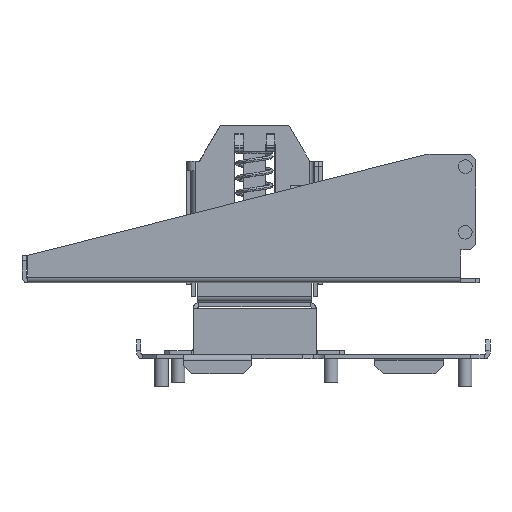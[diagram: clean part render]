
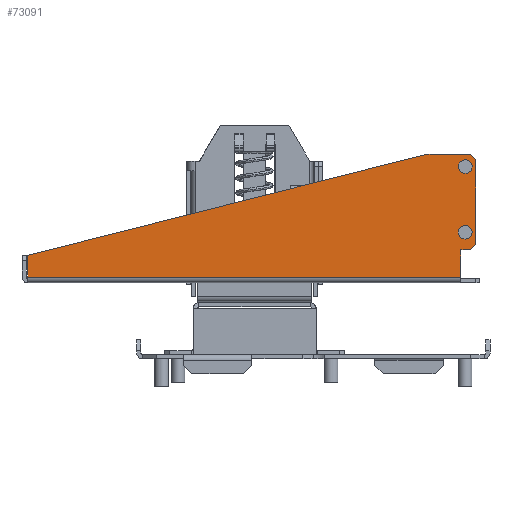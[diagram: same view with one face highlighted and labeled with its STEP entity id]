
A CAD part, left-side view. The second image highlights one B-rep face of the part: STEP entity #73091.
In plain terms, the highlighted planar face has unit normal (-1, 0, 0).
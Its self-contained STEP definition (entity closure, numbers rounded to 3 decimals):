
#70736=CARTESIAN_POINT(' ',(-68.25,-75.4,0.6));
#70737=VERTEX_POINT(' ',#70736);
#70751=CARTESIAN_POINT(' ',(-68.25,-75.4,0.6));
#70756=DIRECTION(' ',(0.,1.,0.));
#70761=VECTOR(' ',#70756,1.);
#70766=LINE('',#70751,#70761);
#70771=CARTESIAN_POINT(' ',(-68.25,83.,0.6));
#70772=VERTEX_POINT(' ',#70771);
#70776=EDGE_CURVE(' ',#70737,#70772,#70766,.T.);
#71971=CARTESIAN_POINT(' ',(-68.25,83.,8.5));
#71976=DIRECTION(' ',(0.,0.,-1.));
#71981=VECTOR(' ',#71976,1.);
#71986=LINE('',#71971,#71981);
#71991=CARTESIAN_POINT(' ',(-68.25,83.,8.5));
#71992=VERTEX_POINT(' ',#71991);
#71996=EDGE_CURVE(' ',#71992,#70772,#71986,.T.);
#72191=CARTESIAN_POINT(' ',(-68.25,-75.4,10.5));
#72192=VERTEX_POINT(' ',#72191);
#72206=CARTESIAN_POINT(' ',(-68.25,-75.4,10.5));
#72211=DIRECTION(' ',(0.,0.,-1.));
#72216=VECTOR(' ',#72211,1.);
#72221=LINE('',#72206,#72216);
#72226=EDGE_CURVE(' ',#72192,#70737,#72221,.T.);
#72836=DIRECTION(' ',(-1.,-0.,0.));
#72841=CARTESIAN_POINT(' ',(-68.25,-80.9,45.5));
#72846=DIRECTION(' ',(-0.,1.,0.));
#72851=AXIS2_PLACEMENT_3D(' ',#72841,#72836,#72846);
#72856=PLANE('NONE',#72851);
#72861=CARTESIAN_POINT(' ',(-68.25,-78.9,10.5));
#72866=DIRECTION(' ',(0.,1.,0.));
#72871=VECTOR(' ',#72866,1.);
#72876=LINE('',#72861,#72871);
#72881=CARTESIAN_POINT(' ',(-68.25,-78.9,10.5));
#72882=VERTEX_POINT(' ',#72881);
#72886=EDGE_CURVE(' ',#72882,#72192,#72876,.T.);
#72891=ORIENTED_EDGE(' ',*,*,#72886,.F.);
#72896=CARTESIAN_POINT(' ',(-68.25,-78.9,10.5));
#72901=DIRECTION(' ',(0.,-0.707,0.707));
#72906=VECTOR(' ',#72901,1.);
#72911=LINE('',#72896,#72906);
#72916=CARTESIAN_POINT(' ',(-68.25,-80.9,12.5));
#72917=VERTEX_POINT(' ',#72916);
#72921=EDGE_CURVE(' ',#72882,#72917,#72911,.T.);
#72926=ORIENTED_EDGE(' ',*,*,#72921,.T.);
#72931=CARTESIAN_POINT(' ',(-68.25,-80.9,12.5));
#72936=DIRECTION(' ',(0.,0.,1.));
#72941=VECTOR(' ',#72936,1.);
#72946=LINE('',#72931,#72941);
#72951=CARTESIAN_POINT(' ',(-68.25,-80.9,43.5));
#72952=VERTEX_POINT(' ',#72951);
#72956=EDGE_CURVE(' ',#72917,#72952,#72946,.T.);
#72961=ORIENTED_EDGE(' ',*,*,#72956,.T.);
#72966=CARTESIAN_POINT(' ',(-68.25,-80.9,43.5));
#72971=DIRECTION(' ',(0.,0.707,0.707));
#72976=VECTOR(' ',#72971,1.);
#72981=LINE('',#72966,#72976);
#72986=CARTESIAN_POINT(' ',(-68.25,-78.9,45.5));
#72987=VERTEX_POINT(' ',#72986);
#72991=EDGE_CURVE(' ',#72952,#72987,#72981,.T.);
#72996=ORIENTED_EDGE(' ',*,*,#72991,.T.);
#73001=CARTESIAN_POINT(' ',(-68.25,-78.9,45.5));
#73006=DIRECTION(' ',(0.,1.,0.));
#73011=VECTOR(' ',#73006,1.);
#73016=LINE('',#73001,#73011);
#73021=CARTESIAN_POINT(' ',(-68.25,-63.,45.5));
#73022=VERTEX_POINT(' ',#73021);
#73026=EDGE_CURVE(' ',#72987,#73022,#73016,.T.);
#73031=ORIENTED_EDGE(' ',*,*,#73026,.T.);
#73036=CARTESIAN_POINT(' ',(-68.25,-63.,45.5));
#73041=DIRECTION(' ',(0.,0.969,-0.246));
#73046=VECTOR(' ',#73041,1.);
#73051=LINE('',#73036,#73046);
#73056=EDGE_CURVE(' ',#73022,#71992,#73051,.T.);
#73061=ORIENTED_EDGE(' ',*,*,#73056,.T.);
#73066=ORIENTED_EDGE(' ',*,*,#71996,.T.);
#73071=ORIENTED_EDGE(' ',*,*,#70776,.F.);
#73076=ORIENTED_EDGE(' ',*,*,#72226,.F.);
#73081=EDGE_LOOP(' ',(#72891,#72926,#72961,#72996,#73031,#73061,#73066,#73071,#73076));
#73086=FACE_OUTER_BOUND(' ',#73081,.T.);
#73091=ADVANCED_FACE('NONE',(#73086),#72856,.T.);
